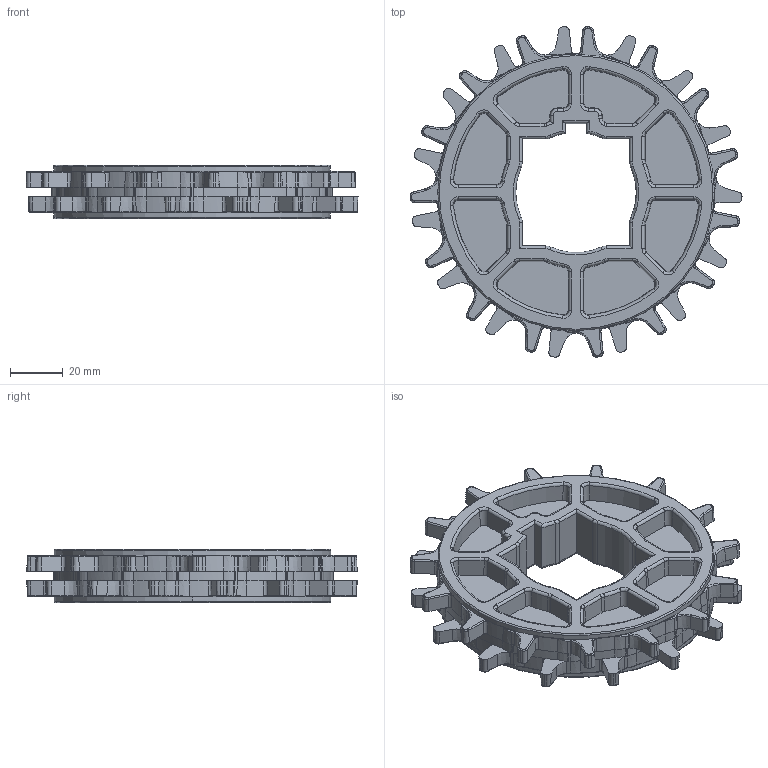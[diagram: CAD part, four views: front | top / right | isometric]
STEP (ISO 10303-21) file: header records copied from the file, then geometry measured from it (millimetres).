
FILE_DESCRIPTION(/* description */ (''),/* implementation_level */ '2;1');
FILE_NAME(/* name */ 'HS-500-15T-2R.stp',/* time_stamp */ '2024-09-06T17:26:05+08:00',/* author */ (''),/* organization */ (''),/* preprocessor_version */ 'ST-DEVELOPER v15',/* originating_system */ 'SIEMENS PLM Software NX 8.5',/* authorisation */ '');
FILE_SCHEMA (('AP203_CONFIGURATION_CONTROLLED_3D_DESIGN_OF_MECHANICAL_PARTS_AND_ASSEMBLIES_MIM_LF { 1 0 10303 403 2 1 2}'));
Length unit declared in the file: millimetre
Products named in the file (1): Admi24C05E544vzy
Bounding box: 125.48 x 124.86 x 20.19 mm (x, y, z)
Volume: 98055.1 mm3; surface area: 38056 mm2
Topology: 1 solids, 1 shells, 1155 faces, 3040 edges, 1905 vertices
Faces by surface type: cylinder 300, cone 288, torus 260, plane 237, bspline 70
Entity records: 41006 total; most frequent: CARTESIAN_POINT 12858, ORIENTED_EDGE 6080, DIRECTION 5988, EDGE_CURVE 3040, AXIS2_PLACEMENT_3D 2519, VERTEX_POINT 1905, CIRCLE 1351, EDGE_LOOP 1175
